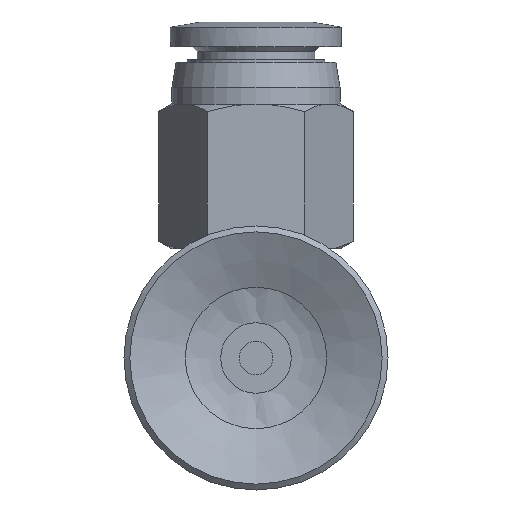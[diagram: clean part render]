
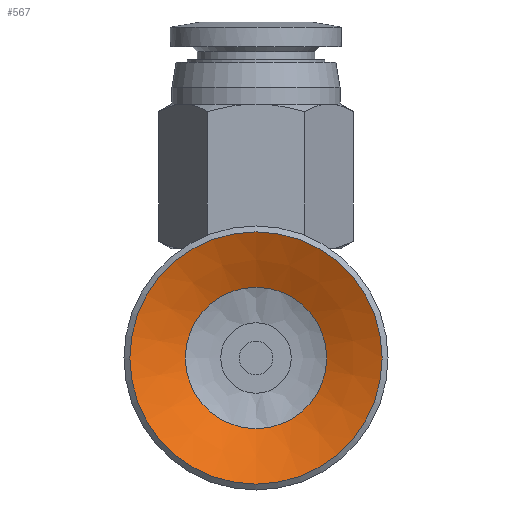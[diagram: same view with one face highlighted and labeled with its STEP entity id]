
A CAD part, front view. The second image highlights one B-rep face of the part: STEP entity #567.
In plain terms, the highlighted conical face has half-angle 65.056 degrees and reference radius 3.2 mm.
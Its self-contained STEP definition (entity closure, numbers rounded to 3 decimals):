
#567=ADVANCED_FACE('',(#897,#898),#899,.F.);
#897=FACE_BOUND('',#1342,.T.);
#898=FACE_OUTER_BOUND('',#1343,.T.);
#899=CONICAL_SURFACE('',#1344,3.2,1.135);
#1342=EDGE_LOOP('',(#2436));
#1343=EDGE_LOOP('',(#2437));
#1344=AXIS2_PLACEMENT_3D('',#2438,#2439,#2440);
#2436=ORIENTED_EDGE('',*,*,#2970,.T.);
#2437=ORIENTED_EDGE('',*,*,#2971,.T.);
#2438=CARTESIAN_POINT('',(0.0,7.896,0.0));
#2439=DIRECTION('',(-0.0,-1.0,0.));
#2440=DIRECTION('',(0.0,0.,-1.0));
#2970=EDGE_CURVE('',#3408,#3408,#3409,.T.);
#2971=EDGE_CURVE('',#3410,#3410,#3411,.T.);
#3408=VERTEX_POINT('',#4334);
#3409=CIRCLE('',#4335,4.203);
#3410=VERTEX_POINT('',#4336);
#3411=CIRCLE('',#4337,7.5);
#4334=CARTESIAN_POINT('',(0.0,7.43,-4.203));
#4335=AXIS2_PLACEMENT_3D('',#5107,#5108,#5109);
#4336=CARTESIAN_POINT('',(0.0,5.896,-7.5));
#4337=AXIS2_PLACEMENT_3D('',#5110,#5111,#5112);
#5107=CARTESIAN_POINT('',(0.0,7.43,0.0));
#5108=DIRECTION('',(0.0,1.0,0.));
#5109=DIRECTION('',(0.0,0.,-1.0));
#5110=CARTESIAN_POINT('',(0.0,5.896,0.0));
#5111=DIRECTION('',(0.0,-1.0,0.));
#5112=DIRECTION('',(0.0,0.,-1.0));
